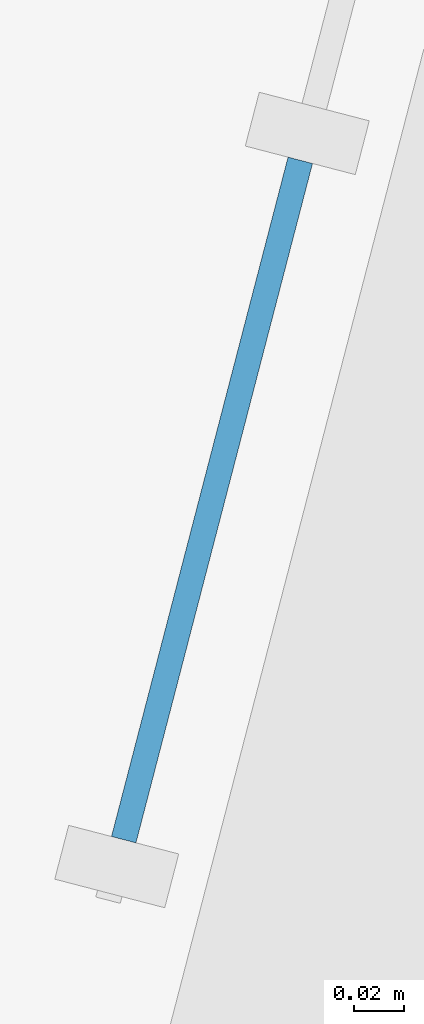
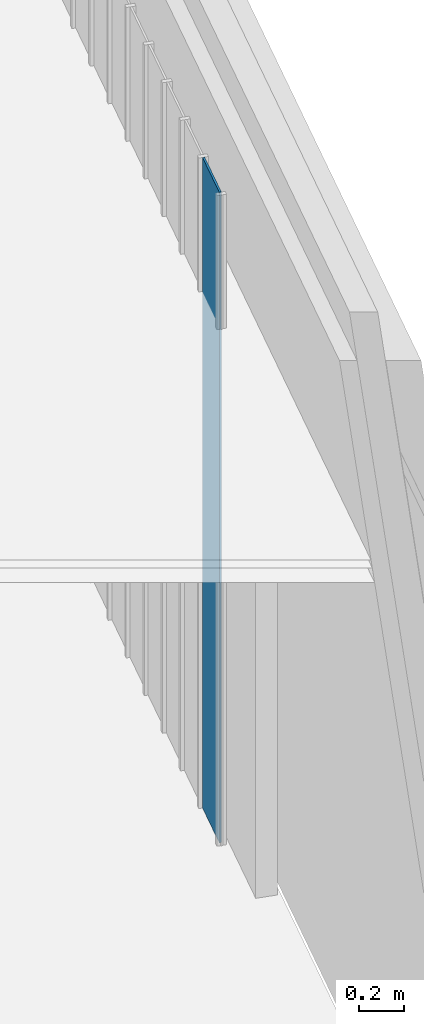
# One storey, part 5 of 9: 1 plate, 1 element without a shape of its own.
"""IFC2X3 building model written with IfcOpenShell, lengths in millimetres."""

from ifc_helpers import new_model, entity, si_unit, converted_unit, derived_unit, direction, frame, origin, origin_with_axes, place, context, subcontext, project, spatial, faceted_brep, material, type_object, element, aggregate, save


model = new_model("IFC2X3")

# Units and contexts
plan_context = context("Plan", 3, precision=1e-05, world=origin_with_axes())
model_context = context("Model", 3, precision=0.01, world=origin(), true_north=direction((6.12323399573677e-17, 1.0)))
body_context = subcontext(model_context, "Body", "Model", "MODEL_VIEW")
ifc_project = project(units=[converted_unit("PLANEANGLEUNIT", "DEGREE", entity("IfcPositiveLengthMeasure", 0.0174532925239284), si_unit("PLANEANGLEUNIT", "RADIAN"), dimensions=[0, 0, 0, 0, 0, 0, 0]), si_unit("AREAUNIT", "SQUARE_METRE"), si_unit("LENGTHUNIT", "METRE", prefix="MILLI"), si_unit("MASSUNIT", "GRAM", prefix="KILO"), si_unit("POWERUNIT", "WATT"), si_unit("PRESSUREUNIT", "PASCAL", prefix="KILO"), si_unit("FORCEUNIT", "NEWTON", prefix="KILO"), si_unit("ELECTRICVOLTAGEUNIT", "VOLT"), si_unit("ELECTRICCURRENTUNIT", "AMPERE"), si_unit("THERMODYNAMICTEMPERATUREUNIT", "DEGREE_CELSIUS"), si_unit("TIMEUNIT", "SECOND"), si_unit("VOLUMEUNIT", "CUBIC_METRE"), derived_unit("LINEARVELOCITYUNIT", [(si_unit("LENGTHUNIT", "METRE"), 1), (si_unit("TIMEUNIT", "SECOND"), -1)]), derived_unit("VOLUMETRICFLOWRATEUNIT", [(si_unit("VOLUMEUNIT", "CUBIC_METRE"), 1), (si_unit("TIMEUNIT", "SECOND"), -1)]), derived_unit("THERMALTRANSMITTANCEUNIT", [(si_unit("POWERUNIT", "WATT"), 1), (si_unit("THERMODYNAMICTEMPERATUREUNIT", "KELVIN"), -1), (si_unit("AREAUNIT", "SQUARE_METRE"), -1)]), derived_unit("SOUNDPRESSUREUNIT", [(si_unit("PRESSUREUNIT", "PASCAL"), 1)])], contexts=[model_context, plan_context])

# Site, building, storey
site_placement = place(None, frame((0.0, -2.21771188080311e-09, 0.0), z_axis=(0.0, 0.0, 1.0), x_axis=(0.266093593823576, -0.963947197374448, 0.0)))
site = spatial("IfcSite", under=ifc_project, at=site_placement, Name="ENZV", CompositionType="ELEMENT")
building_placement = place(site_placement, origin_with_axes())
building = spatial("IfcBuilding", under=site, at=building_placement, Name="ZV001", CompositionType="ELEMENT")
storey_placement = place(building_placement, frame((0.0, 0.0, 5100.0), z_axis=(0.0, 0.0, 1.0), x_axis=(1.0, 0.0, 0.0)))
storey = spatial("IfcBuildingStorey", under=building, at=storey_placement, Name="H01", CompositionType="ELEMENT", Elevation=5100.0)

# Curtain wall, plate
curtain_wall_type = type_object("IfcCurtainWallType", Name="Curtain Wall:Trespiler", PredefinedType="NOTDEFINED")
curtain_wall_placement = place(storey_placement, frame((0.0, 0.0, -5100.0), z_axis=(0.0, 0.0, 1.0), x_axis=(1.0, 0.0, 0.0)))
curtain_wall = element("IfcCurtainWall", 1, at=curtain_wall_placement, inside=storey, type_object=curtain_wall_type, Name="Curtain Wall:Trespiler", ObjectType="Curtain Wall:Trespiler")
ifc_material = material(Name="Glass")
plate_type = type_object("IfcPlateType", Name="System Panel:Glassfelt 10mm", PredefinedType="CURTAIN_PANEL", material=ifc_material)
plate_placement = place(curtain_wall_placement, frame((-169374.267584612, 386170.469346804, 5100.0), z_axis=(0.0, 0.0, 1.0), x_axis=(0.866025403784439, -0.5, 0.0)))
plate = element("IfcPlate", 2, at=plate_placement, type_object=plate_type, Name="System Panel:Glassfelt 10mm", ObjectType="System Panel:Glassfelt 10mm", context=body_context, shape_type="Brep", body=[
    faceted_brep([(-138.99999999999, -5.0, 3500.0), (138.999999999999, -5.0, 3500.0), (138.999999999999, -5.0, 0.0), (-138.99999999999, -5.0, 0.0), (138.999999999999, 5.0, 3500.0), (138.999999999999, 5.0, 0.0), (-138.99999999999, 5.0, 3500.0), (-138.99999999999, 5.0, 0.0)], [[[0, 1, 2, 3]], [[1, 4, 5, 2]], [[4, 6, 7, 5]], [[6, 0, 3, 7]], [[3, 2, 5, 7]], [[6, 4, 1, 0]]], orient=[[False], [False], [False], [False], [False], [False]]),
])
aggregate(curtain_wall, [plate])

save(model, "model.ifc")
